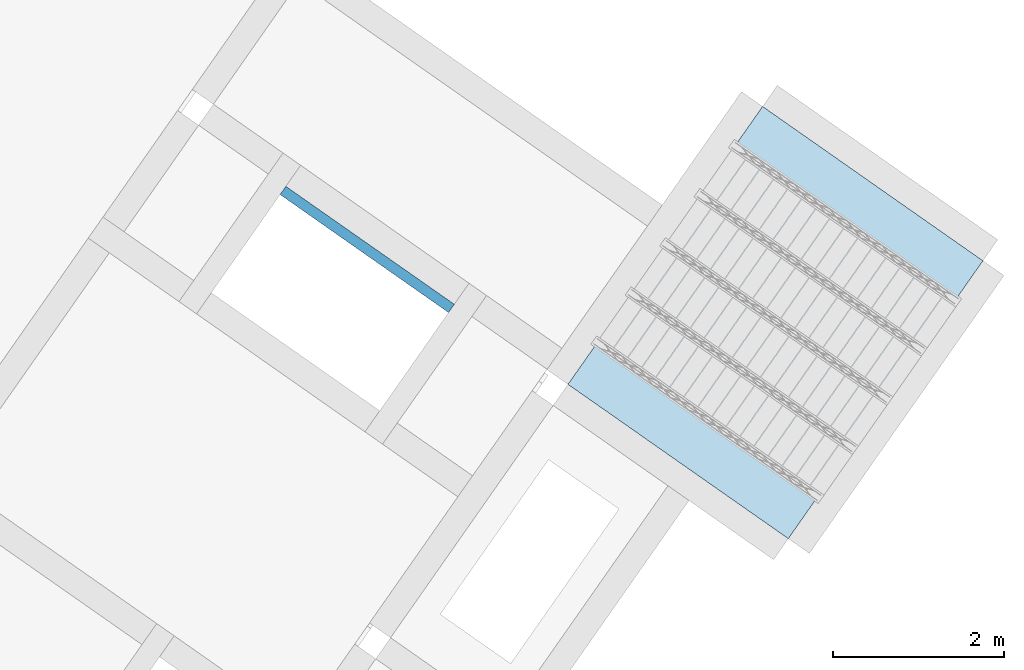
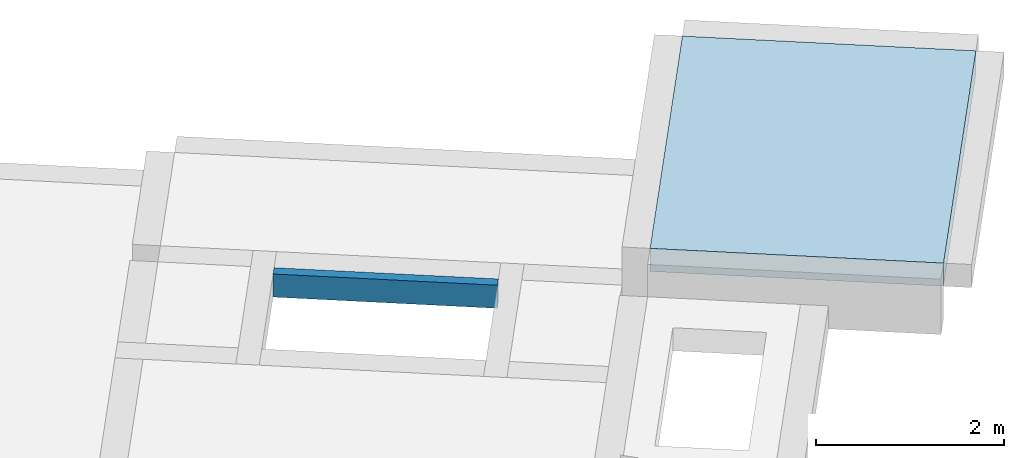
# One storey, part 32 of 46: 2 slabs.
"""IFC2X3 building model written with IfcOpenShell, lengths in metres."""

import ifcopenshell
import ifcopenshell.guid

model = None  # the IFC model being written
_history = None  # IfcOwnerHistory: only IFC2X3 demands one
_inside = {}  # id of a spatial element -> (the spatial element, [elements in it])
_under = {}  # id of a project, library or spatial element -> (it, [spatial elements below it])
_declared = {}  # id of a project -> (the project, [libraries it declares])
_typed = {}  # id of a type object -> (the type object, [elements of that type])
_made_of = {}  # id of a material, layer set ... -> (it, [elements and type objects made of it])


def new_model(schema):
    """Start an empty IFC model of exactly this schema.

    Asked for "IFC4X3", IfcOpenShell would pick the latest addendum, in which some entities
    have other attributes; the version numbers below select the first issue.
    IFC2X3 requires an IfcOwnerHistory on every rooted entity: one is made here for all.
    """
    global model, _history
    if schema == "IFC4X3":
        model = ifcopenshell.file(schema_version=(4, 3, 0, 0))
    else:
        model = ifcopenshell.file(schema=schema)
    _inside.clear()
    _under.clear()
    _declared.clear()
    _typed.clear()
    _made_of.clear()
    _history = None
    if model.schema == "IFC2X3":
        org = make("IfcOrganization", Name="unknown")
        user = make(
            "IfcPersonAndOrganization",
            ThePerson=make("IfcPerson", FamilyName="unknown"),
            TheOrganization=org,
        )
        app = make(
            "IfcApplication",
            ApplicationDeveloper=org,
            Version="unknown",
            ApplicationFullName="unknown",
            ApplicationIdentifier="unknown",
        )
        _history = make(
            "IfcOwnerHistory",
            OwningUser=user,
            OwningApplication=app,
            ChangeAction="ADDED",
            CreationDate=0,
        )
    return model


def make(cls, **values):
    """One entity of the class cls with the attributes given. An attribute that is None is left unset."""
    return model.create_entity(
        cls, **{name: value for name, value in values.items() if value is not None}
    )


def entity(cls, *values):
    """Any entity or typed value of the class cls, its attributes in the order of the schema. None: left unset."""
    e = model.create_entity(cls)
    for i, value in enumerate(values):
        if value is not None:
            e[i] = value
    return e


def rooted(cls, **values):
    """An entity with a GlobalId (a new one), such as an element, a storey or a relation."""
    return make(cls, GlobalId=ifcopenshell.guid.new(), OwnerHistory=_history, **values)


def si_unit(unit_type, name, prefix=None):
    """IfcSIUnit, for example si_unit("LENGTHUNIT", "METRE", prefix="MILLI")."""
    return make("IfcSIUnit", UnitType=unit_type, Prefix=prefix, Name=name)


def converted_unit(unit_type, name, factor, base, dimensions=None, offset=None):
    """IfcConversionBasedUnit, such as the inch: factor (a typed value) times the base unit."""
    return make(
        "IfcConversionBasedUnit"
        if offset is None
        else "IfcConversionBasedUnitWithOffset",
        ConversionOffset=offset,
        Dimensions=None
        if dimensions is None
        else entity("IfcDimensionalExponents", *dimensions),
        UnitType=unit_type,
        Name=name,
        ConversionFactor=make(
            "IfcMeasureWithUnit", ValueComponent=factor, UnitComponent=base
        ),
    )


def derived_unit(unit_type, elements):
    """IfcDerivedUnit: a product of units, each with its exponent."""
    return make(
        "IfcDerivedUnit",
        Elements=[
            make("IfcDerivedUnitElement", Unit=unit, Exponent=power)
            for unit, power in elements
        ],
        UnitType=unit_type,
    )


def assignment(units):
    """IfcUnitAssignment: the units of a project."""
    return None if units is None else make("IfcUnitAssignment", Units=units)


def point(xyz):
    """IfcCartesianPoint."""
    return None if xyz is None else make("IfcCartesianPoint", Coordinates=xyz)


def direction(xyz):
    """IfcDirection."""
    return None if xyz is None else make("IfcDirection", DirectionRatios=xyz)


def frame(location, z_axis=None, x_axis=None):
    """IfcAxis2Placement3D, a coordinate frame: its origin and axes. An axis left out is left unset."""
    return make(
        "IfcAxis2Placement3D",
        Location=point(location),
        Axis=direction(z_axis),
        RefDirection=direction(x_axis),
    )


def frame_2d(location, x_axis=None):
    """IfcAxis2Placement2D, a coordinate frame in the plane: its origin and x axis."""
    return make(
        "IfcAxis2Placement2D", Location=point(location), RefDirection=direction(x_axis)
    )


def origin():
    """The frame at (0, 0, 0) with its axes left unset."""
    return frame((0.0, 0.0, 0.0))


def origin_2d_with_axis():
    """The frame at (0, 0) in the plane with the x axis (1, 0) written out."""
    return frame_2d((0.0, 0.0), x_axis=(1.0, 0.0))


def place(relative_to, where):
    """IfcLocalPlacement: puts the frame where relative to a parent placement (None: the world)."""
    return make(
        "IfcLocalPlacement", PlacementRelTo=relative_to, RelativePlacement=where
    )


def context(
    kind, dimensions, precision=None, world=None, true_north=None, identifier=None
):
    """IfcGeometricRepresentationContext, for example the 3D "Model" context."""
    return make(
        "IfcGeometricRepresentationContext",
        ContextIdentifier=identifier,
        ContextType=kind,
        CoordinateSpaceDimension=dimensions,
        Precision=precision,
        WorldCoordinateSystem=world,
        TrueNorth=true_north,
    )


def subcontext(parent, identifier, kind, view, scale=None):
    """IfcGeometricRepresentationSubContext, for example "Body" below "Model"."""
    return make(
        "IfcGeometricRepresentationSubContext",
        ContextIdentifier=identifier,
        ContextType=kind,
        ParentContext=parent,
        TargetScale=scale,
        TargetView=view,
    )


def project(units=None, contexts=None):
    """IfcProject with its units and contexts."""
    return rooted(
        "IfcProject",
        Name="project",
        RepresentationContexts=contexts,
        UnitsInContext=assignment(units),
    )


def spatial(cls, under=None, at=None, **own):
    """A site, building, storey or space (cls), placed at a placement, below another one or the project."""
    s = rooted(cls, ObjectPlacement=at, **own)
    if under is not None:
        _under.setdefault(under.id(), (under, []))[1].append(s)
    return s


def profile(cls, at=None, kind="AREA", **sizes):
    """A parametric profile (cls). Its sizes go by their IFC names, for example OverallWidth=200.0."""
    return make(cls, ProfileType=kind, Position=at, **sizes)


def rectangle(**sizes):
    """IfcRectangleProfileDef."""
    return profile("IfcRectangleProfileDef", **sizes)


def extrude(swept, where, along, depth):
    """IfcExtrudedAreaSolid: the profile swept, set in the frame where, extruded along a direction by depth."""
    return make(
        "IfcExtrudedAreaSolid",
        SweptArea=swept,
        Position=where,
        ExtrudedDirection=direction(along),
        Depth=depth,
    )


def shape(context_of_items, identifier, shape_type, items):
    """IfcShapeRepresentation: the items that make up one representation, for example the "Body"."""
    return make(
        "IfcShapeRepresentation",
        ContextOfItems=context_of_items,
        RepresentationIdentifier=identifier,
        RepresentationType=shape_type,
        Items=items,
    )


def made_of(thing, what):
    """Note that an element or type object is made of a material, layer set ...; save() writes the relation."""
    if what is not None:
        _made_of.setdefault(what.id(), (what, []))[1].append(thing)
    return thing


def type_object(cls, material=None, **own):
    """A type object (cls), such as IfcWallType, which elements share."""
    return made_of(rooted(cls, **own), material)


def element(
    cls,
    number,
    at=None,
    inside=None,
    cuts=None,
    type_object=None,
    material=None,
    context=None,
    identifier="Body",
    shape_type=None,
    held_by="IfcProductDefinitionShape",
    body=None,
    shapes=None,
    **own,
):
    """One element of the class cls, such as IfcWall. Its Tag is "e" and its number.

    at: its placement. inside: the storey or other place that contains it. cuts: it is an
    opening in that element (IfcRelVoidsElement). A single representation is given by context,
    identifier, shape_type and body (its items); several are given by shapes. held_by: the class
    of the entity that holds the representations. save() writes the other relations.
    """
    e = rooted(cls, Tag="e%d" % number, ObjectPlacement=at, **own)
    if body is not None:
        shapes = [shape(context, identifier, shape_type, body)]
    if shapes is not None:
        e.Representation = make(held_by, Representations=shapes)
    if inside is not None:
        _inside.setdefault(inside.id(), (inside, []))[1].append(e)
    if cuts is not None:
        rooted(
            "IfcRelVoidsElement", RelatingBuildingElement=cuts, RelatedOpeningElement=e
        )
    if type_object is not None:
        _typed.setdefault(type_object.id(), (type_object, []))[1].append(e)
    return made_of(e, material)


def aggregate(whole, parts):
    """IfcRelAggregates: a whole, such as a stair, and the parts it consists of."""
    return rooted("IfcRelAggregates", RelatingObject=whole, RelatedObjects=parts)


def save(model, path):
    """Write the relations noted so far, then the file.

    IfcRelAggregates (storeys below a building ...), IfcRelContainedInSpatialStructure (elements
    in a storey), IfcRelDefinesByType, IfcRelAssociatesMaterial and IfcRelDeclares: one each for
    every whole, place, type object, material and project.
    """
    for whole, parts in _under.values():
        aggregate(whole, parts)
    for where, things in _inside.values():
        rooted(
            "IfcRelContainedInSpatialStructure",
            RelatedElements=things,
            RelatingStructure=where,
        )
    for kind, things in _typed.values():
        rooted("IfcRelDefinesByType", RelatedObjects=things, RelatingType=kind)
    for what, things in _made_of.values():
        rooted("IfcRelAssociatesMaterial", RelatedObjects=things, RelatingMaterial=what)
    for by, libraries in _declared.values():
        rooted("IfcRelDeclares", RelatingContext=by, RelatedDefinitions=libraries)
    model.write(path)


model = new_model("IFC2X3")

# Units and contexts
model_context = context("Model", 3, precision=1e-05, world=origin(), true_north=direction((6.123031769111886e-17, 1.0)))
body_context = subcontext(model_context, "Body", "Model", "MODEL_VIEW")
ifc_project = project(units=[si_unit("LENGTHUNIT", "METRE"), si_unit("AREAUNIT", "SQUARE_METRE"), si_unit("VOLUMEUNIT", "CUBIC_METRE"), converted_unit("PLANEANGLEUNIT", "DEGREE", entity("IfcPlaneAngleMeasure", 0.017453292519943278), si_unit("PLANEANGLEUNIT", "RADIAN"), dimensions=[0, 0, 0, 0, 0, 0, 0]), si_unit("MASSUNIT", "GRAM", prefix="KILO"), derived_unit("MASSDENSITYUNIT", [(si_unit("MASSUNIT", "GRAM", prefix="KILO"), 1), (si_unit("LENGTHUNIT", "METRE"), -3)]), derived_unit("IONCONCENTRATIONUNIT", [(si_unit("MASSUNIT", "GRAM", prefix="KILO"), 1), (si_unit("LENGTHUNIT", "METRE"), -3)]), derived_unit("MOMENTOFINERTIAUNIT", [(si_unit("LENGTHUNIT", "METRE"), 4)]), si_unit("TIMEUNIT", "SECOND"), si_unit("FREQUENCYUNIT", "HERTZ"), si_unit("THERMODYNAMICTEMPERATUREUNIT", "DEGREE_CELSIUS"), derived_unit("THERMALTRANSMITTANCEUNIT", [(si_unit("MASSUNIT", "GRAM", prefix="KILO"), 1), (si_unit("THERMODYNAMICTEMPERATUREUNIT", "KELVIN"), -1), (si_unit("TIMEUNIT", "SECOND"), -3)]), derived_unit("THERMALCONDUCTANCEUNIT", [(si_unit("MASSUNIT", "GRAM", prefix="KILO"), 1), (si_unit("THERMODYNAMICTEMPERATUREUNIT", "KELVIN"), -1), (si_unit("TIMEUNIT", "SECOND"), -3), (si_unit("LENGTHUNIT", "METRE"), 1)]), derived_unit("VOLUMETRICFLOWRATEUNIT", [(si_unit("LENGTHUNIT", "METRE", prefix="DECI"), 3), (si_unit("TIMEUNIT", "SECOND"), -1)]), derived_unit("MASSFLOWRATEUNIT", [(si_unit("MASSUNIT", "GRAM", prefix="KILO"), 1), (si_unit("TIMEUNIT", "SECOND"), -1)]), derived_unit("ROTATIONALFREQUENCYUNIT", [(si_unit("TIMEUNIT", "SECOND"), -1)]), si_unit("ELECTRICCURRENTUNIT", "AMPERE"), si_unit("ELECTRICVOLTAGEUNIT", "VOLT"), si_unit("POWERUNIT", "WATT"), si_unit("FORCEUNIT", "NEWTON", prefix="KILO"), si_unit("ILLUMINANCEUNIT", "LUX"), si_unit("LUMINOUSFLUXUNIT", "LUMEN"), si_unit("LUMINOUSINTENSITYUNIT", "CANDELA"), si_unit("ENERGYUNIT", "JOULE"), derived_unit("USERDEFINED", [(si_unit("MASSUNIT", "GRAM", prefix="KILO"), -1), (si_unit("LENGTHUNIT", "METRE"), -2), (si_unit("TIMEUNIT", "SECOND"), 3), (si_unit("LUMINOUSFLUXUNIT", "LUMEN"), 1)]), derived_unit("USERDEFINED", [(si_unit("MASSUNIT", "GRAM", prefix="KILO"), 1), (si_unit("TIMEUNIT", "SECOND"), -3), (si_unit("LENGTHUNIT", "METRE"), 3), (si_unit("ELECTRICCURRENTUNIT", "AMPERE"), -2)]), derived_unit("SOUNDPOWERUNIT", [(si_unit("MASSUNIT", "GRAM", prefix="KILO"), 1), (si_unit("TIMEUNIT", "SECOND"), -3), (si_unit("LENGTHUNIT", "METRE"), 2)]), derived_unit("SOUNDPRESSUREUNIT", [(si_unit("MASSUNIT", "GRAM", prefix="KILO"), 1), (si_unit("LENGTHUNIT", "METRE"), -1), (si_unit("TIMEUNIT", "SECOND"), -2)]), derived_unit("LINEARVELOCITYUNIT", [(si_unit("LENGTHUNIT", "METRE"), 1), (si_unit("TIMEUNIT", "SECOND"), -1)]), si_unit("PRESSUREUNIT", "PASCAL"), derived_unit("USERDEFINED", [(si_unit("MASSUNIT", "GRAM", prefix="KILO"), 1), (si_unit("LENGTHUNIT", "METRE"), -2), (si_unit("TIMEUNIT", "SECOND"), -2)]), derived_unit("LINEARFORCEUNIT", [(si_unit("MASSUNIT", "GRAM", prefix="KILO"), 1), (si_unit("TIMEUNIT", "SECOND"), -2)]), derived_unit("PLANARFORCEUNIT", [(si_unit("MASSUNIT", "GRAM", prefix="KILO"), 1), (si_unit("LENGTHUNIT", "METRE"), -1), (si_unit("TIMEUNIT", "SECOND"), -2)]), derived_unit("SPECIFICHEATCAPACITYUNIT", [(si_unit("THERMODYNAMICTEMPERATUREUNIT", "KELVIN"), -1), (si_unit("LENGTHUNIT", "METRE"), 2), (si_unit("TIMEUNIT", "SECOND"), -2)]), derived_unit("HEATFLUXDENSITYUNIT", [(si_unit("MASSUNIT", "GRAM", prefix="KILO"), 1), (si_unit("TIMEUNIT", "SECOND"), -3)]), derived_unit("HEATINGVALUEUNIT", [(si_unit("LENGTHUNIT", "METRE"), 2), (si_unit("TIMEUNIT", "SECOND"), -2)]), derived_unit("VAPORPERMEABILITYUNIT", [(si_unit("LENGTHUNIT", "METRE"), -1), (si_unit("TIMEUNIT", "SECOND"), 1)]), derived_unit("DYNAMICVISCOSITYUNIT", [(si_unit("MASSUNIT", "GRAM", prefix="KILO"), 1), (si_unit("TIMEUNIT", "SECOND"), -1), (si_unit("LENGTHUNIT", "METRE"), -1)]), derived_unit("THERMALEXPANSIONCOEFFICIENTUNIT", [(si_unit("THERMODYNAMICTEMPERATUREUNIT", "KELVIN"), -1)]), derived_unit("MODULUSOFELASTICITYUNIT", [(si_unit("MASSUNIT", "GRAM", prefix="KILO"), 1), (si_unit("LENGTHUNIT", "METRE"), -1), (si_unit("TIMEUNIT", "SECOND"), -2)]), derived_unit("ISOTHERMALMOISTURECAPACITYUNIT", [(si_unit("MASSUNIT", "GRAM", prefix="KILO"), -1), (si_unit("LENGTHUNIT", "METRE"), 3)]), derived_unit("MOISTUREDIFFUSIVITYUNIT", [(si_unit("TIMEUNIT", "SECOND"), -1), (si_unit("LENGTHUNIT", "METRE"), 2)]), derived_unit("MASSPERLENGTHUNIT", [(si_unit("MASSUNIT", "GRAM", prefix="KILO"), 1), (si_unit("LENGTHUNIT", "METRE"), -1)]), derived_unit("THERMALRESISTANCEUNIT", [(si_unit("MASSUNIT", "GRAM", prefix="KILO"), -1), (si_unit("TIMEUNIT", "SECOND"), 3), (si_unit("THERMODYNAMICTEMPERATUREUNIT", "KELVIN"), 1)]), derived_unit("ACCELERATIONUNIT", [(si_unit("LENGTHUNIT", "METRE"), 1), (si_unit("TIMEUNIT", "SECOND"), -2)]), derived_unit("ANGULARVELOCITYUNIT", [(si_unit("TIMEUNIT", "SECOND"), -1), (si_unit("PLANEANGLEUNIT", "RADIAN"), 1)]), derived_unit("LINEARSTIFFNESSUNIT", [(si_unit("MASSUNIT", "GRAM", prefix="KILO"), 1), (si_unit("TIMEUNIT", "SECOND"), -2)]), derived_unit("WARPINGCONSTANTUNIT", [(si_unit("LENGTHUNIT", "METRE"), 6)]), derived_unit("LINEARMOMENTUNIT", [(si_unit("MASSUNIT", "GRAM", prefix="KILO"), 1), (si_unit("LENGTHUNIT", "METRE"), 1), (si_unit("TIMEUNIT", "SECOND"), -2)]), derived_unit("TORQUEUNIT", [(si_unit("MASSUNIT", "GRAM", prefix="KILO"), 1), (si_unit("LENGTHUNIT", "METRE"), 2), (si_unit("TIMEUNIT", "SECOND"), -2)])], contexts=[model_context])

# Site, building, storey
site_placement = place(None, origin())
site = spatial("IfcSite", under=ifc_project, at=site_placement, Name="Default", CompositionType="ELEMENT")
building_placement = place(site_placement, origin())
building = spatial("IfcBuilding", under=site, at=building_placement, CompositionType="ELEMENT")
storey_placement = place(building_placement, frame((0.0, 0.0, 99.52000000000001)))
storey = spatial("IfcBuildingStorey", under=building, at=storey_placement, Name="F1", CompositionType="ELEMENT", Elevation=99.52000000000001)

# Slabs
slab_type = type_object("IfcSlabType", Name="Forma directa:DirectShapeType 1092", PredefinedType="FLOOR")
slab_1_placement = place(storey_placement, origin())
element("IfcSlab", 1, at=slab_1_placement, inside=storey, type_object=slab_type, Name="Forma directa:DirectShapeType 1092", ObjectType="Forma directa:DirectShapeType 1092", PredefinedType="FLOOR", context=body_context, shape_type="SweptSolid", body=[
    extrude(rectangle(XDim=3.1399999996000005, YDim=3.9600000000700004, at=frame_2d((1.1102230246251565e-15, 4.440892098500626e-16), x_axis=(1.0, 0.0))), frame((12.59882772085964, 5.014809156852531, 0.2000000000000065), z_axis=(0.0, 0.0, 1.0), x_axis=(-0.8191520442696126, 0.5735764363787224, 0.0)), (0.0, 0.0, 1.0), 0.3000000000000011),
])
slab_2_placement = place(storey_placement, origin())
element("IfcSlab", 2, at=slab_2_placement, inside=storey, type_object=slab_type, Name="Paño 7 (30 cm)", ObjectType="Losas macizas: 30", PredefinedType="FLOOR", context=body_context, shape_type="SweptSolid", body=[
    extrude(rectangle(XDim=0.1174682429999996, YDim=2.400000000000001, at=origin_2d_with_axis()), frame((7.833920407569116, 5.8684634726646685, -0.3000000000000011), z_axis=(0.0, 0.0, 1.0), x_axis=(0.5735764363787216, 0.8191520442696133, 0.0)), (0.0, 0.0, 1.0), 0.3000000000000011),
])

save(model, "model.ifc")
